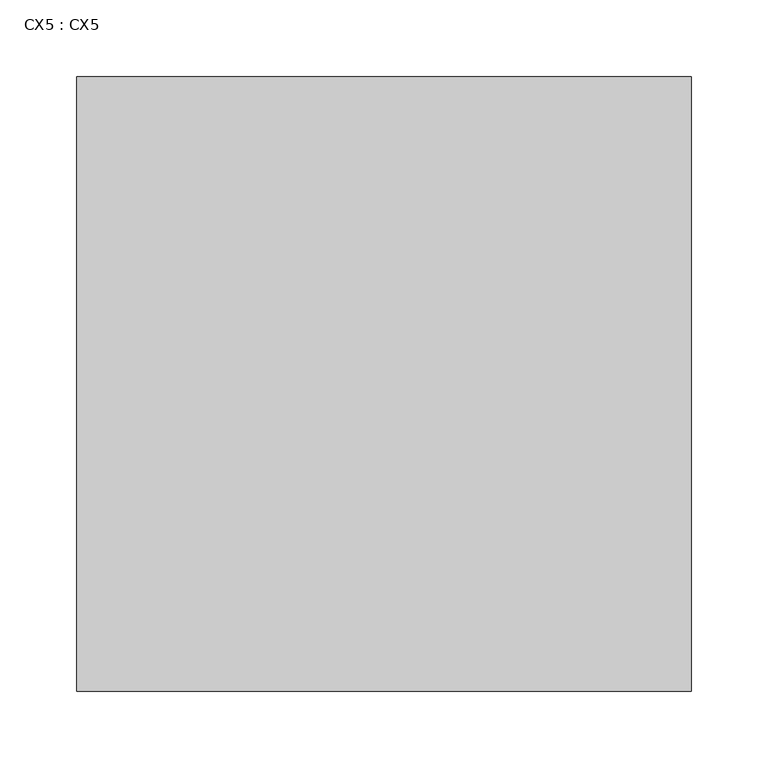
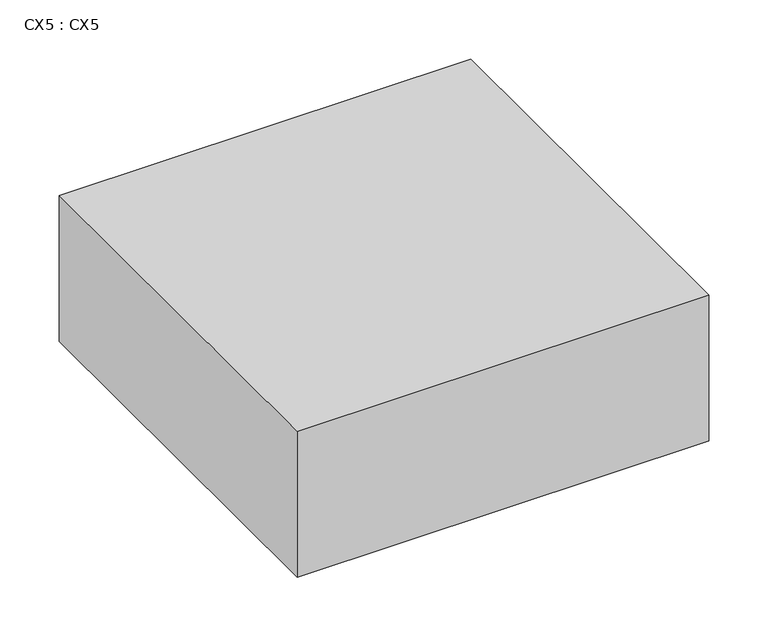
"""IFC4 building model written with IfcOpenShell, lengths in millimetres: proxy geometry, CX5 : CX5."""

import ifcopenshell
import ifcopenshell.guid

model = None  # the IFC model being written
_history = None  # IfcOwnerHistory: only IFC2X3 demands one
_inside = {}  # id of a spatial element -> (the spatial element, [elements in it])
_under = {}  # id of a project, library or spatial element -> (it, [spatial elements below it])
_declared = {}  # id of a project -> (the project, [libraries it declares])
_typed = {}  # id of a type object -> (the type object, [elements of that type])
_made_of = {}  # id of a material, layer set ... -> (it, [elements and type objects made of it])


def new_model(schema):
    """Start an empty IFC model of exactly this schema.

    Asked for "IFC4X3", IfcOpenShell would pick the latest addendum, in which some entities
    have other attributes; the version numbers below select the first issue.
    IFC2X3 requires an IfcOwnerHistory on every rooted entity: one is made here for all.
    """
    global model, _history
    if schema == "IFC4X3":
        model = ifcopenshell.file(schema_version=(4, 3, 0, 0))
    else:
        model = ifcopenshell.file(schema=schema)
    _inside.clear()
    _under.clear()
    _declared.clear()
    _typed.clear()
    _made_of.clear()
    _history = None
    if model.schema == "IFC2X3":
        org = make("IfcOrganization", Name="unknown")
        user = make(
            "IfcPersonAndOrganization",
            ThePerson=make("IfcPerson", FamilyName="unknown"),
            TheOrganization=org,
        )
        app = make(
            "IfcApplication",
            ApplicationDeveloper=org,
            Version="unknown",
            ApplicationFullName="unknown",
            ApplicationIdentifier="unknown",
        )
        _history = make(
            "IfcOwnerHistory",
            OwningUser=user,
            OwningApplication=app,
            ChangeAction="ADDED",
            CreationDate=0,
        )
    return model


def make(cls, **values):
    """One entity of the class cls with the attributes given. An attribute that is None is left unset."""
    return model.create_entity(
        cls, **{name: value for name, value in values.items() if value is not None}
    )


def rooted(cls, **values):
    """An entity with a GlobalId (a new one), such as an element, a storey or a relation."""
    return make(cls, GlobalId=ifcopenshell.guid.new(), OwnerHistory=_history, **values)


def si_unit(unit_type, name, prefix=None):
    """IfcSIUnit, for example si_unit("LENGTHUNIT", "METRE", prefix="MILLI")."""
    return make("IfcSIUnit", UnitType=unit_type, Prefix=prefix, Name=name)


def assignment(units):
    """IfcUnitAssignment: the units of a project."""
    return None if units is None else make("IfcUnitAssignment", Units=units)


def point(xyz):
    """IfcCartesianPoint."""
    return None if xyz is None else make("IfcCartesianPoint", Coordinates=xyz)


def direction(xyz):
    """IfcDirection."""
    return None if xyz is None else make("IfcDirection", DirectionRatios=xyz)


def frame(location, z_axis=None, x_axis=None):
    """IfcAxis2Placement3D, a coordinate frame: its origin and axes. An axis left out is left unset."""
    return make(
        "IfcAxis2Placement3D",
        Location=point(location),
        Axis=direction(z_axis),
        RefDirection=direction(x_axis),
    )


def origin():
    """The frame at (0, 0, 0) with its axes left unset."""
    return frame((0.0, 0.0, 0.0))


def place(relative_to, where):
    """IfcLocalPlacement: puts the frame where relative to a parent placement (None: the world)."""
    return make(
        "IfcLocalPlacement", PlacementRelTo=relative_to, RelativePlacement=where
    )


def context(
    kind, dimensions, precision=None, world=None, true_north=None, identifier=None
):
    """IfcGeometricRepresentationContext, for example the 3D "Model" context."""
    return make(
        "IfcGeometricRepresentationContext",
        ContextIdentifier=identifier,
        ContextType=kind,
        CoordinateSpaceDimension=dimensions,
        Precision=precision,
        WorldCoordinateSystem=world,
        TrueNorth=true_north,
    )


def project(units=None, contexts=None):
    """IfcProject with its units and contexts."""
    return rooted(
        "IfcProject",
        Name="project",
        RepresentationContexts=contexts,
        UnitsInContext=assignment(units),
    )


def spatial(cls, under=None, at=None, **own):
    """A site, building, storey or space (cls), placed at a placement, below another one or the project."""
    s = rooted(cls, ObjectPlacement=at, **own)
    if under is not None:
        _under.setdefault(under.id(), (under, []))[1].append(s)
    return s


def polyline(points):
    """IfcPolyline through the points."""
    return make("IfcPolyline", Points=[point(p) for p in points])


def outline(outer, holes=None, kind="AREA"):
    """IfcArbitraryClosedProfileDef: a profile drawn as a closed curve; with holes, ...WithVoids."""
    if holes is None:
        return make("IfcArbitraryClosedProfileDef", ProfileType=kind, OuterCurve=outer)
    return make(
        "IfcArbitraryProfileDefWithVoids",
        ProfileType=kind,
        OuterCurve=outer,
        InnerCurves=holes,
    )


def extrude(swept, where, along, depth):
    """IfcExtrudedAreaSolid: the profile swept, set in the frame where, extruded along a direction by depth."""
    return make(
        "IfcExtrudedAreaSolid",
        SweptArea=swept,
        Position=where,
        ExtrudedDirection=direction(along),
        Depth=depth,
    )


def shape(context_of_items, identifier, shape_type, items):
    """IfcShapeRepresentation: the items that make up one representation, for example the "Body"."""
    return make(
        "IfcShapeRepresentation",
        ContextOfItems=context_of_items,
        RepresentationIdentifier=identifier,
        RepresentationType=shape_type,
        Items=items,
    )


def source(mapping_origin, context_of_items, identifier, shape_type, items):
    """IfcRepresentationMap: a shape defined once, which mapped items show again and again."""
    return make(
        "IfcRepresentationMap",
        MappingOrigin=mapping_origin,
        MappedRepresentation=shape(context_of_items, identifier, shape_type, items),
    )


def transform(
    local_origin,
    x_axis=None,
    y_axis=None,
    z_axis=None,
    scale=None,
    scale2=None,
    scale3=None,
    uniform=True,
):
    """IfcCartesianTransformationOperator3D, or its non-uniform kind. x_axis, y_axis, z_axis: its Axis1, 2, 3."""
    if uniform:
        return make(
            "IfcCartesianTransformationOperator3D",
            Axis1=direction(x_axis),
            Axis2=direction(y_axis),
            LocalOrigin=point(local_origin),
            Scale=scale,
            Axis3=direction(z_axis),
        )
    return make(
        "IfcCartesianTransformationOperator3DnonUniform",
        Axis1=direction(x_axis),
        Axis2=direction(y_axis),
        LocalOrigin=point(local_origin),
        Scale=scale,
        Axis3=direction(z_axis),
        Scale2=scale2,
        Scale3=scale3,
    )


def mapped(mapping_source, mapping_target):
    """IfcMappedItem: shows the shape of a source again, moved by a transform."""
    return make(
        "IfcMappedItem", MappingSource=mapping_source, MappingTarget=mapping_target
    )


def made_of(thing, what):
    """Note that an element or type object is made of a material, layer set ...; save() writes the relation."""
    if what is not None:
        _made_of.setdefault(what.id(), (what, []))[1].append(thing)
    return thing


def element(
    cls,
    number,
    at=None,
    inside=None,
    cuts=None,
    type_object=None,
    material=None,
    context=None,
    identifier="Body",
    shape_type=None,
    held_by="IfcProductDefinitionShape",
    body=None,
    shapes=None,
    **own,
):
    """One element of the class cls, such as IfcWall. Its Tag is "e" and its number.

    at: its placement. inside: the storey or other place that contains it. cuts: it is an
    opening in that element (IfcRelVoidsElement). A single representation is given by context,
    identifier, shape_type and body (its items); several are given by shapes. held_by: the class
    of the entity that holds the representations. save() writes the other relations.
    """
    e = rooted(cls, Tag="e%d" % number, ObjectPlacement=at, **own)
    if body is not None:
        shapes = [shape(context, identifier, shape_type, body)]
    if shapes is not None:
        e.Representation = make(held_by, Representations=shapes)
    if inside is not None:
        _inside.setdefault(inside.id(), (inside, []))[1].append(e)
    if cuts is not None:
        rooted(
            "IfcRelVoidsElement", RelatingBuildingElement=cuts, RelatedOpeningElement=e
        )
    if type_object is not None:
        _typed.setdefault(type_object.id(), (type_object, []))[1].append(e)
    return made_of(e, material)


def aggregate(whole, parts):
    """IfcRelAggregates: a whole, such as a stair, and the parts it consists of."""
    return rooted("IfcRelAggregates", RelatingObject=whole, RelatedObjects=parts)


def save(model, path):
    """Write the relations noted so far, then the file.

    IfcRelAggregates (storeys below a building ...), IfcRelContainedInSpatialStructure (elements
    in a storey), IfcRelDefinesByType, IfcRelAssociatesMaterial and IfcRelDeclares: one each for
    every whole, place, type object, material and project.
    """
    for whole, parts in _under.values():
        aggregate(whole, parts)
    for where, things in _inside.values():
        rooted(
            "IfcRelContainedInSpatialStructure",
            RelatedElements=things,
            RelatingStructure=where,
        )
    for kind, things in _typed.values():
        rooted("IfcRelDefinesByType", RelatedObjects=things, RelatingType=kind)
    for what, things in _made_of.values():
        rooted("IfcRelAssociatesMaterial", RelatedObjects=things, RelatingMaterial=what)
    for by, libraries in _declared.values():
        rooted("IfcRelDeclares", RelatingContext=by, RelatedDefinitions=libraries)
    model.write(path)


def cx5_cx5_f7341484(model_context):
    return source(origin(), model_context, "Body", "SweptSolid", [
        extrude(outline(polyline([(7450.0, 25305.5), (7850.0, 25305.5), (7850.0, 24905.5), (7450.0, 24905.5), (7450.0, 25305.5)])), frame((0.0, 0.0, 2870.0), z_axis=(0.0, 0.0, 1.0), x_axis=(1.0, 0.0, 0.0)), (0.0, 0.0, 1.0), 150.0),
    ])


if __name__ == "__main__":
    model = new_model("IFC4")
    model_context = context("Model", 3, world=origin())
    ifc_project = project(units=[si_unit("LENGTHUNIT", "METRE", prefix="MILLI")], contexts=[model_context])
    site = spatial("IfcSite", under=ifc_project)
    building = spatial("IfcBuilding", under=site)
    placement = place(None, origin())
    cx5_cx5_shape = cx5_cx5_f7341484(model_context)
    element("IfcBuildingElementProxy", 1, Name="CX5 : CX5", ObjectType="CX5 : CX5", at=placement, inside=building, context=model_context, shape_type="MappedRepresentation", body=[
        mapped(cx5_cx5_shape, transform((0.0, 0.0, 0.0), x_axis=(1.0, 0.0, 0.0), y_axis=(0.0, 1.0, 0.0), z_axis=(0.0, 0.0, 1.0))),
    ])
    save(model, "model.ifc")
